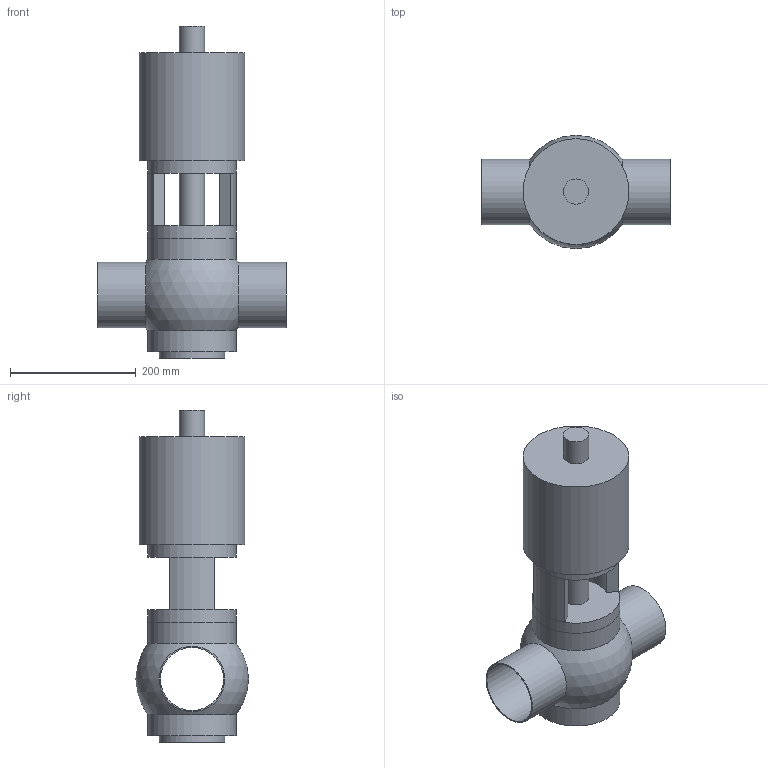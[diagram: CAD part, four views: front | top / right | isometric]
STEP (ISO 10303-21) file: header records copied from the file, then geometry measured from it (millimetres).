
FILE_DESCRIPTION(('FreeCAD Model'),'2;1');
FILE_NAME( '/home/martin/Documents/proyect/valves/stp/valve_T_DN-100.step', '2018-01-12T21:56:10',('Author'),(''), 'Open CASCADE STEP processor 6.8','FreeCAD','Unknown');
FILE_SCHEMA(('AUTOMOTIVE_DESIGN_CC2 { 1 2 10303 214 -1 1 5 4 }'));
Length unit declared in the file: millimetre
Products named in the file (3): ASSEMBLY; valve_T_DN-100-body; valve_T_DN-100-head
Assembly tree (2 placements, depth 2):
  ASSEMBLY
    valve_T_DN-100-body
    valve_T_DN-100-head
Bounding box: 300 x 180 x 527 mm (x, y, z)
Volume: 6183943.8 mm3; surface area: 487684.3 mm2
Topology: 2 solids, 2 shells, 36 faces, 80 edges, 50 vertices
Faces by surface type: cylinder 18, plane 16, sphere 2
Full cylindrical faces by diameter (mm): 40 x2, 100 x3, 104 x3, 140 x4, 168 x1
Entity records: 2414 total; most frequent: CARTESIAN_POINT 556, DIRECTION 350, ORIENTED_EDGE 158, PCURVE 158, DEFINITIONAL_REPRESENTATION 158, LINE 145, VECTOR 145, AXIS2_PLACEMENT_3D 88
